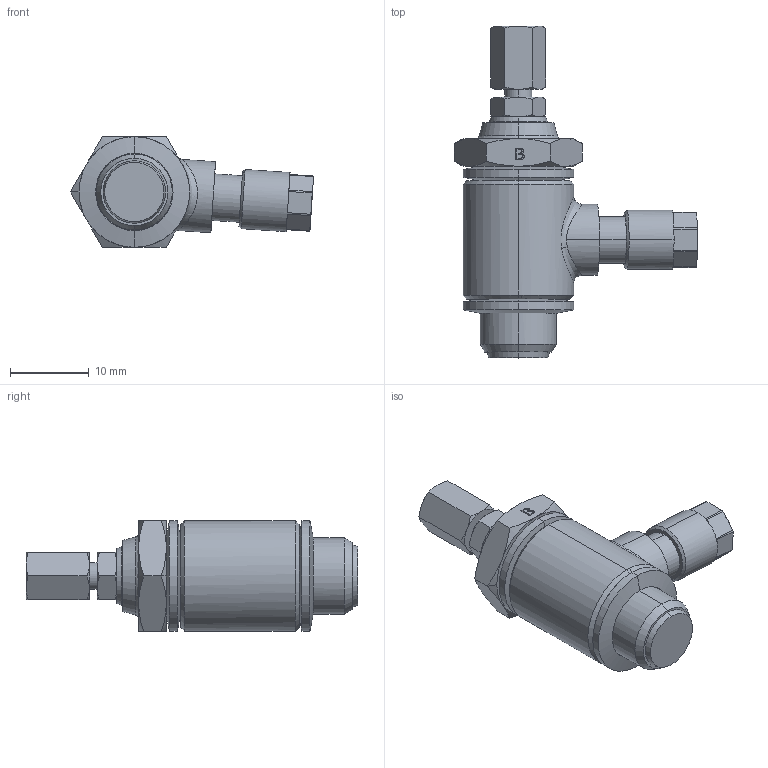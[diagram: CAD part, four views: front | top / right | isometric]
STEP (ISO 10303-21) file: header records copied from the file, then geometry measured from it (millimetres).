
FILE_DESCRIPTION (( 'STEP AP203' ), '1' );
FILE_NAME ('249884.STEP', '2016-08-10T08:58:45', ( '' ), ( '' ), 'SwSTEP 2.0', 'SolidWorks 2016', '' );
FILE_SCHEMA (( 'CONFIG_CONTROL_DESIGN' ));
Length unit declared in the file: millimetre
Products named in the file (1): 249884
Bounding box: 30.86 x 42.13 x 14.04 mm (x, y, z)
Volume: 4890.9 mm3; surface area: 2901.6 mm2
Topology: 1 solids, 1 shells, 198 faces, 479 edges, 297 vertices
Faces by surface type: plane 75, cone 69, cylinder 34, bspline 20
Entity records: 7589 total; most frequent: CARTESIAN_POINT 3009, ORIENTED_EDGE 958, DIRECTION 918, EDGE_CURVE 479, AXIS2_PLACEMENT_3D 382, VERTEX_POINT 297, EDGE_LOOP 224, CIRCLE 203
